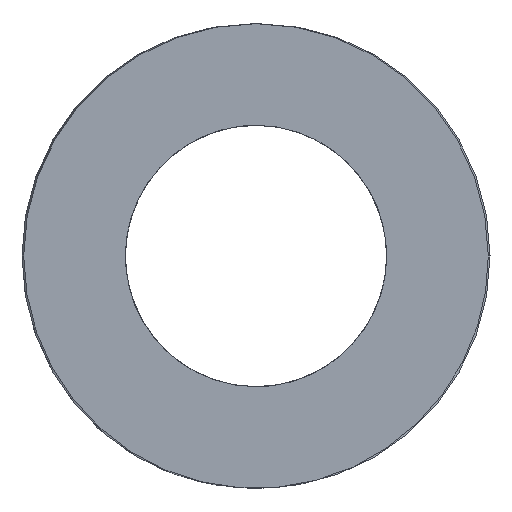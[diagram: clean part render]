
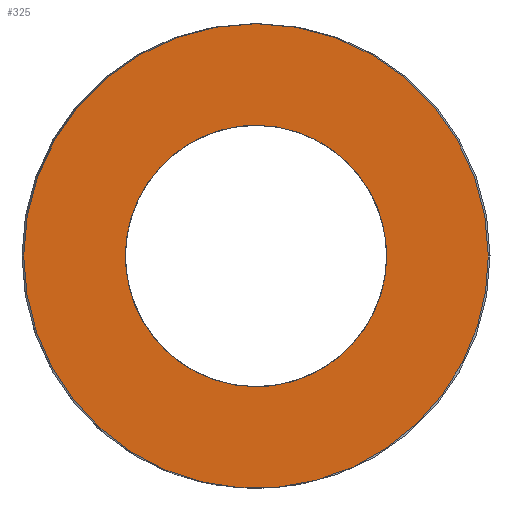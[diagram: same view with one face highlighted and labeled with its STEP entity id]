
A CAD part, left-side view. The second image highlights one B-rep face of the part: STEP entity #325.
In plain terms, the highlighted planar face has unit normal (-1, 0, 0).
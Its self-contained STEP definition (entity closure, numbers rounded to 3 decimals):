
#63=CARTESIAN_POINT('Vertex',(0.,18.75,0.)) ;
#89=CARTESIAN_POINT('Vertex',(0.,-18.75,0.)) ;
#93=CARTESIAN_POINT('Control Point',(0.,18.75,0.)) ;
#94=CARTESIAN_POINT('Control Point',(0.,18.75,-2.945)) ;
#95=CARTESIAN_POINT('Control Point',(0.,18.172,-5.89)) ;
#96=CARTESIAN_POINT('Control Point',(0.,17.015,-8.684)) ;
#97=CARTESIAN_POINT('Control Point',(0.,13.667,-13.667)) ;
#98=CARTESIAN_POINT('Control Point',(0.,8.684,-17.015)) ;
#99=CARTESIAN_POINT('Control Point',(0.,5.89,-18.172)) ;
#100=CARTESIAN_POINT('Control Point',(0.,0.,-19.328)) ;
#101=CARTESIAN_POINT('Control Point',(0.,-5.89,-18.172)) ;
#102=CARTESIAN_POINT('Control Point',(0.,-8.684,-17.015)) ;
#103=CARTESIAN_POINT('Control Point',(0.,-13.667,-13.667)) ;
#104=CARTESIAN_POINT('Control Point',(0.,-17.015,-8.684)) ;
#105=CARTESIAN_POINT('Control Point',(0.,-18.172,-5.89)) ;
#106=CARTESIAN_POINT('Control Point',(0.,-18.75,-2.945)) ;
#107=CARTESIAN_POINT('Control Point',(0.,-18.75,0.)) ;
#121=CARTESIAN_POINT('Axis2P3D Location',(0.,0.,0.)) ;
#256=CARTESIAN_POINT('Axis2P3D Location',(0.,9.375,0.)) ;
#266=CARTESIAN_POINT('Control Point',(0.,0.,-10.55)) ;
#267=CARTESIAN_POINT('Control Point',(0.,0.955,-10.55)) ;
#268=CARTESIAN_POINT('Control Point',(0.,1.909,-10.442)) ;
#269=CARTESIAN_POINT('Control Point',(0.,2.848,-10.226)) ;
#270=CARTESIAN_POINT('Control Point',(0.,4.66,-9.585)) ;
#271=CARTESIAN_POINT('Control Point',(0.,6.283,-8.556)) ;
#272=CARTESIAN_POINT('Control Point',(0.,7.032,-7.952)) ;
#273=CARTESIAN_POINT('Control Point',(0.,8.381,-6.584)) ;
#274=CARTESIAN_POINT('Control Point',(0.,9.391,-4.949)) ;
#275=CARTESIAN_POINT('Control Point',(0.,9.801,-4.077)) ;
#276=CARTESIAN_POINT('Control Point',(0.,10.416,-2.257)) ;
#277=CARTESIAN_POINT('Control Point',(0.,10.61,-0.345)) ;
#278=CARTESIAN_POINT('Control Point',(0.,10.597,0.618)) ;
#279=CARTESIAN_POINT('Control Point',(0.,10.355,2.524)) ;
#280=CARTESIAN_POINT('Control Point',(0.,9.693,4.328)) ;
#281=CARTESIAN_POINT('Control Point',(0.,9.26,5.189)) ;
#282=CARTESIAN_POINT('Control Point',(0.,8.209,6.797)) ;
#283=CARTESIAN_POINT('Control Point',(0.,6.825,8.13)) ;
#284=CARTESIAN_POINT('Control Point',(0.,6.06,8.715)) ;
#285=CARTESIAN_POINT('Control Point',(0.,4.458,9.674)) ;
#286=CARTESIAN_POINT('Control Point',(0.,2.687,10.262)) ;
#287=CARTESIAN_POINT('Control Point',(0.,1.801,10.454)) ;
#288=CARTESIAN_POINT('Control Point',(0.,0.9,10.55)) ;
#289=CARTESIAN_POINT('Control Point',(0.,0.,10.55)) ;
#290=CARTESIAN_POINT('Vertex',(0.,0.,-10.55)) ;
#292=CARTESIAN_POINT('Vertex',(0.,0.,10.55)) ;
#296=CARTESIAN_POINT('Control Point',(0.,0.,10.55)) ;
#297=CARTESIAN_POINT('Control Point',(0.,-0.955,10.55)) ;
#298=CARTESIAN_POINT('Control Point',(0.,-1.909,10.442)) ;
#299=CARTESIAN_POINT('Control Point',(0.,-2.848,10.226)) ;
#300=CARTESIAN_POINT('Control Point',(0.,-4.66,9.585)) ;
#301=CARTESIAN_POINT('Control Point',(0.,-6.283,8.556)) ;
#302=CARTESIAN_POINT('Control Point',(0.,-7.032,7.952)) ;
#303=CARTESIAN_POINT('Control Point',(0.,-8.381,6.584)) ;
#304=CARTESIAN_POINT('Control Point',(0.,-9.391,4.949)) ;
#305=CARTESIAN_POINT('Control Point',(0.,-9.801,4.077)) ;
#306=CARTESIAN_POINT('Control Point',(0.,-10.416,2.257)) ;
#307=CARTESIAN_POINT('Control Point',(0.,-10.61,0.345)) ;
#308=CARTESIAN_POINT('Control Point',(0.,-10.597,-0.618)) ;
#309=CARTESIAN_POINT('Control Point',(0.,-10.355,-2.524)) ;
#310=CARTESIAN_POINT('Control Point',(0.,-9.693,-4.328)) ;
#311=CARTESIAN_POINT('Control Point',(0.,-9.26,-5.189)) ;
#312=CARTESIAN_POINT('Control Point',(0.,-8.209,-6.797)) ;
#313=CARTESIAN_POINT('Control Point',(0.,-6.825,-8.13)) ;
#314=CARTESIAN_POINT('Control Point',(0.,-6.06,-8.715)) ;
#315=CARTESIAN_POINT('Control Point',(0.,-4.458,-9.674)) ;
#316=CARTESIAN_POINT('Control Point',(0.,-2.687,-10.262)) ;
#317=CARTESIAN_POINT('Control Point',(0.,-1.801,-10.454)) ;
#318=CARTESIAN_POINT('Control Point',(0.,-0.9,-10.55)) ;
#319=CARTESIAN_POINT('Control Point',(0.,0.,-10.55)) ;
#122=DIRECTION('Axis2P3D Direction',(1.,-0.,0.)) ;
#257=DIRECTION('Axis2P3D Direction',(-1.,0.,0.)) ;
#258=DIRECTION('Axis2P3D XDirection',(0.,1.,0.)) ;
#123=AXIS2_PLACEMENT_3D('Circle Axis2P3D',#121,#122,$) ;
#259=AXIS2_PLACEMENT_3D('Plane Axis2P3D',#256,#257,#258) ;
#262=ORIENTED_EDGE('',*,*,#108,.T.) ;
#263=ORIENTED_EDGE('',*,*,#125,.T.) ;
#322=ORIENTED_EDGE('',*,*,#294,.T.) ;
#323=ORIENTED_EDGE('',*,*,#320,.T.) ;
#324=FACE_BOUND('',#321,.T.) ;
#325=ADVANCED_FACE('392-B40-152',(#264,#324),#260,.T.) ;
#92=B_SPLINE_CURVE_WITH_KNOTS('',5,(#93,#94,#95,#96,#97,#98,#99,#100,#101,#102,#103,#104,#105,#106,#107),.UNSPECIFIED.,.F.,.U.,(6,3,3,3,6),(-29.452,-14.726,0.,14.726,29.452),.UNSPECIFIED.) ;
#265=B_SPLINE_CURVE_WITH_KNOTS('',5,(#266,#267,#268,#269,#270,#271,#272,#273,#274,#275,#276,#277,#278,#279,#280,#281,#282,#283,#284,#285,#286,#287,#288,#289),.UNSPECIFIED.,.F.,.U.,(6,3,3,3,3,3,3,6),(0.,6.751,13.502,20.253,27.004,33.755,40.506,46.872),.UNSPECIFIED.) ;
#295=B_SPLINE_CURVE_WITH_KNOTS('',5,(#296,#297,#298,#299,#300,#301,#302,#303,#304,#305,#306,#307,#308,#309,#310,#311,#312,#313,#314,#315,#316,#317,#318,#319),.UNSPECIFIED.,.F.,.U.,(6,3,3,3,3,3,3,6),(0.,6.751,13.502,20.253,27.004,33.755,40.506,46.872),.UNSPECIFIED.) ;
#124=CIRCLE('generated circle',#123,18.75) ;
#108=EDGE_CURVE('',#64,#90,#92,.T.) ;
#125=EDGE_CURVE('',#90,#64,#124,.F.) ;
#294=EDGE_CURVE('',#291,#293,#265,.T.) ;
#320=EDGE_CURVE('',#293,#291,#295,.T.) ;
#261=EDGE_LOOP('',(#262,#263)) ;
#321=EDGE_LOOP('',(#322,#323)) ;
#264=FACE_OUTER_BOUND('',#261,.T.) ;
#260=PLANE('Plane',#259) ;
#64=VERTEX_POINT('',#63) ;
#90=VERTEX_POINT('',#89) ;
#291=VERTEX_POINT('',#290) ;
#293=VERTEX_POINT('',#292) ;
